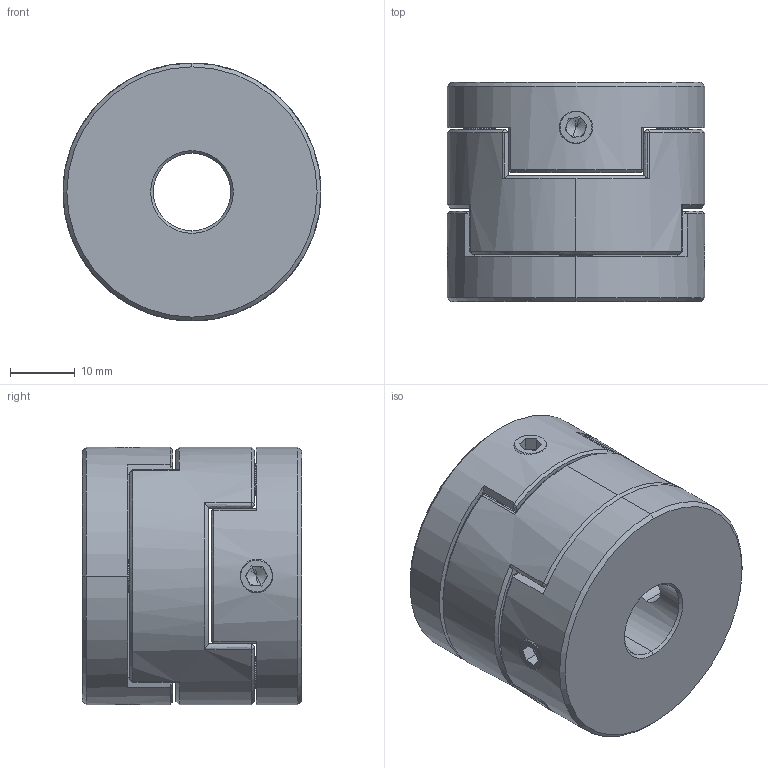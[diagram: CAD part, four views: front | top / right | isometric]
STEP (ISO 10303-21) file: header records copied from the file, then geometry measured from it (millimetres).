
FILE_DESCRIPTION (( 'STEP AP203' ), '1' );
FILE_NAME ('LZ-D-D40L35-12-14.STEP', '2021-10-30T05:19:26', ( '' ), ( '' ), 'SwSTEP 2.0', 'SolidWorks 2018', '' );
FILE_SCHEMA (( 'CONFIG_CONTROL_DESIGN' ));
Length unit declared in the file: millimetre
Products named in the file (1): LZ-D-D40L35-12-14
Bounding box: 40 x 34 x 40 mm (x, y, z)
Volume: 35616.9 mm3; surface area: 12469.7 mm2
Topology: 1 solids, 1 shells, 217 faces, 542 edges, 327 vertices
Faces by surface type: plane 88, bspline 55, cone 48, cylinder 26
Entity records: 7732 total; most frequent: CARTESIAN_POINT 3009, ORIENTED_EDGE 1068, DIRECTION 796, EDGE_CURVE 534, VERTEX_POINT 327, AXIS2_PLACEMENT_3D 289, EDGE_LOOP 243, VECTOR 218
